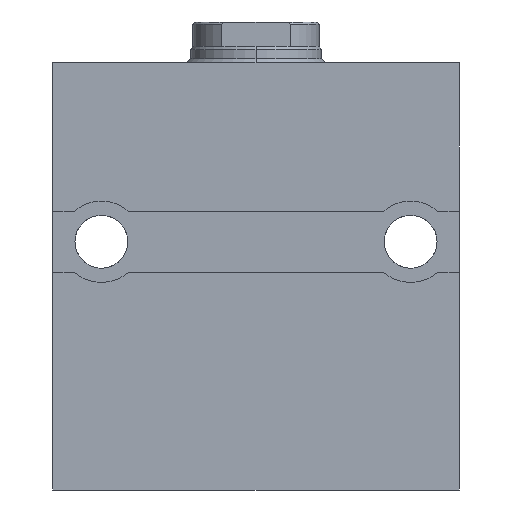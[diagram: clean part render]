
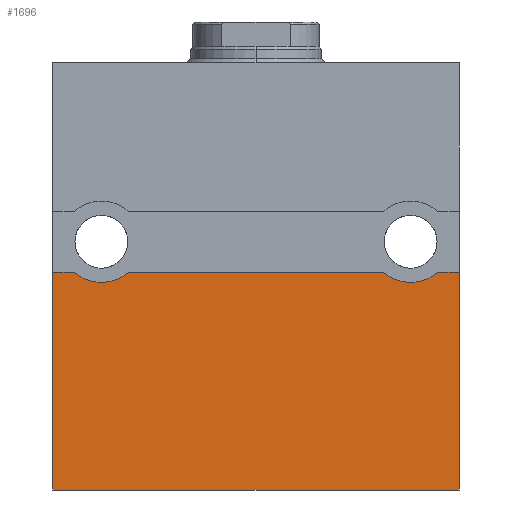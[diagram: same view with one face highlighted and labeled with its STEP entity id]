
A CAD part, left-side view. The second image highlights one B-rep face of the part: STEP entity #1696.
In plain terms, the highlighted planar face has unit normal (-1, 0, 0).
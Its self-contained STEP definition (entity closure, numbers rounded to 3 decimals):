
#109 = CARTESIAN_POINT ( 'NONE',  ( -37.5, -31.386, -61.5 ) ) ;
#115 = DIRECTION ( 'NONE',  ( 0., 0., -1. ) ) ;
#220 = DIRECTION ( 'NONE',  ( 0., -1., 0. ) ) ;
#254 = EDGE_CURVE ( 'NONE', #5669, #3375, #2767, .T. ) ;
#400 = DIRECTION ( 'NONE',  ( 0., 0., 1. ) ) ;
#426 = LINE ( 'NONE', #4135, #1055 ) ;
#445 = ORIENTED_EDGE ( 'NONE', *, *, #3649, .T. ) ;
#489 = CARTESIAN_POINT ( 'NONE',  ( -37.5, -50., -61.5 ) ) ;
#535 = VECTOR ( 'NONE', #220, 1000. ) ;
#549 = DIRECTION ( 'NONE',  ( 0., -1., 0. ) ) ;
#658 = ORIENTED_EDGE ( 'NONE', *, *, #4375, .F. ) ;
#672 = DIRECTION ( 'NONE',  ( 1., 0., 0. ) ) ;
#969 = CARTESIAN_POINT ( 'NONE',  ( -37.5, 50., -115. ) ) ;
#999 = CARTESIAN_POINT ( 'NONE',  ( -37.5, -50., -115. ) ) ;
#1055 = VECTOR ( 'NONE', #4583, 1000. ) ;
#1087 = CARTESIAN_POINT ( 'NONE',  ( -37.5, 50., -61.5 ) ) ;
#1140 = LINE ( 'NONE', #3913, #1334 ) ;
#1334 = VECTOR ( 'NONE', #5805, 1000. ) ;
#1342 = ORIENTED_EDGE ( 'NONE', *, *, #5486, .F. ) ;
#1386 = EDGE_CURVE ( 'NONE', #5669, #5674, #426, .T. ) ;
#1461 = DIRECTION ( 'NONE',  ( 0., 0., 1. ) ) ;
#1473 = CARTESIAN_POINT ( 'NONE',  ( -37.5, -44.614, -61.5 ) ) ;
#1474 = CIRCLE ( 'NONE', #4876, 10. ) ;
#1658 = CARTESIAN_POINT ( 'NONE',  ( -37.5, 31.386, -61.5 ) ) ;
#1687 = CIRCLE ( 'NONE', #3640, 10. ) ;
#1696 = ADVANCED_FACE ( 'NONE', ( #4199 ), #3782, .T. ) ;
#1787 = ORIENTED_EDGE ( 'NONE', *, *, #254, .T. ) ;
#1804 = CARTESIAN_POINT ( 'NONE',  ( -37.5, -50., -115. ) ) ;
#2233 = VECTOR ( 'NONE', #549, 1000. ) ;
#2248 = VERTEX_POINT ( 'NONE', #2494 ) ;
#2413 = CARTESIAN_POINT ( 'NONE',  ( -37.5, -38., -54. ) ) ;
#2494 = CARTESIAN_POINT ( 'NONE',  ( -37.5, 44.614, -61.5 ) ) ;
#2519 = DIRECTION ( 'NONE',  ( 0., 0., -1. ) ) ;
#2619 = ORIENTED_EDGE ( 'NONE', *, *, #5333, .T. ) ;
#2658 = EDGE_CURVE ( 'NONE', #2854, #2248, #1474, .T. ) ;
#2717 = ORIENTED_EDGE ( 'NONE', *, *, #2658, .T. ) ;
#2767 = LINE ( 'NONE', #4165, #4335 ) ;
#2854 = VERTEX_POINT ( 'NONE', #1658 ) ;
#3043 = LINE ( 'NONE', #4462, #535 ) ;
#3375 = VERTEX_POINT ( 'NONE', #999 ) ;
#3501 = EDGE_CURVE ( 'NONE', #5674, #2248, #1140, .T. ) ;
#3640 = AXIS2_PLACEMENT_3D ( 'NONE', #2413, #3897, #115 ) ;
#3649 = EDGE_CURVE ( 'NONE', #3375, #5855, #4558, .T. ) ;
#3782 = PLANE ( 'NONE',  #5051 ) ;
#3897 = DIRECTION ( 'NONE',  ( 1., 0., 0. ) ) ;
#3913 = CARTESIAN_POINT ( 'NONE',  ( -37.5, 50., -61.5 ) ) ;
#4060 = VECTOR ( 'NONE', #400, 1000. ) ;
#4135 = CARTESIAN_POINT ( 'NONE',  ( -37.5, 50., -115. ) ) ;
#4165 = CARTESIAN_POINT ( 'NONE',  ( -37.5, 50., -115. ) ) ;
#4199 = FACE_OUTER_BOUND ( 'NONE', #4863, .T. ) ;
#4209 = ORIENTED_EDGE ( 'NONE', *, *, #3501, .F. ) ;
#4335 = VECTOR ( 'NONE', #5517, 1000. ) ;
#4362 = CARTESIAN_POINT ( 'NONE',  ( -37.5, 38., -54. ) ) ;
#4375 = EDGE_CURVE ( 'NONE', #5776, #5855, #4772, .T. ) ;
#4462 = CARTESIAN_POINT ( 'NONE',  ( -37.5, 50., -61.5 ) ) ;
#4558 = LINE ( 'NONE', #1804, #4060 ) ;
#4583 = DIRECTION ( 'NONE',  ( 0., 0., 1. ) ) ;
#4772 = LINE ( 'NONE', #1087, #2233 ) ;
#4863 = EDGE_LOOP ( 'NONE', ( #658, #2619, #1342, #2717, #4209, #5262, #1787, #445 ) ) ;
#4876 = AXIS2_PLACEMENT_3D ( 'NONE', #4362, #672, #2519 ) ;
#5051 = AXIS2_PLACEMENT_3D ( 'NONE', #5644, #5616, #1461 ) ;
#5262 = ORIENTED_EDGE ( 'NONE', *, *, #1386, .F. ) ;
#5333 = EDGE_CURVE ( 'NONE', #5776, #5889, #1687, .T. ) ;
#5486 = EDGE_CURVE ( 'NONE', #2854, #5889, #3043, .T. ) ;
#5517 = DIRECTION ( 'NONE',  ( 0., -1., 0. ) ) ;
#5600 = CARTESIAN_POINT ( 'NONE',  ( -37.5, 50., -61.5 ) ) ;
#5616 = DIRECTION ( 'NONE',  ( -1., 0., 0. ) ) ;
#5644 = CARTESIAN_POINT ( 'NONE',  ( -37.5, 50., -115. ) ) ;
#5669 = VERTEX_POINT ( 'NONE', #969 ) ;
#5674 = VERTEX_POINT ( 'NONE', #5600 ) ;
#5776 = VERTEX_POINT ( 'NONE', #1473 ) ;
#5805 = DIRECTION ( 'NONE',  ( 0., -1., 0. ) ) ;
#5855 = VERTEX_POINT ( 'NONE', #489 ) ;
#5889 = VERTEX_POINT ( 'NONE', #109 ) ;
